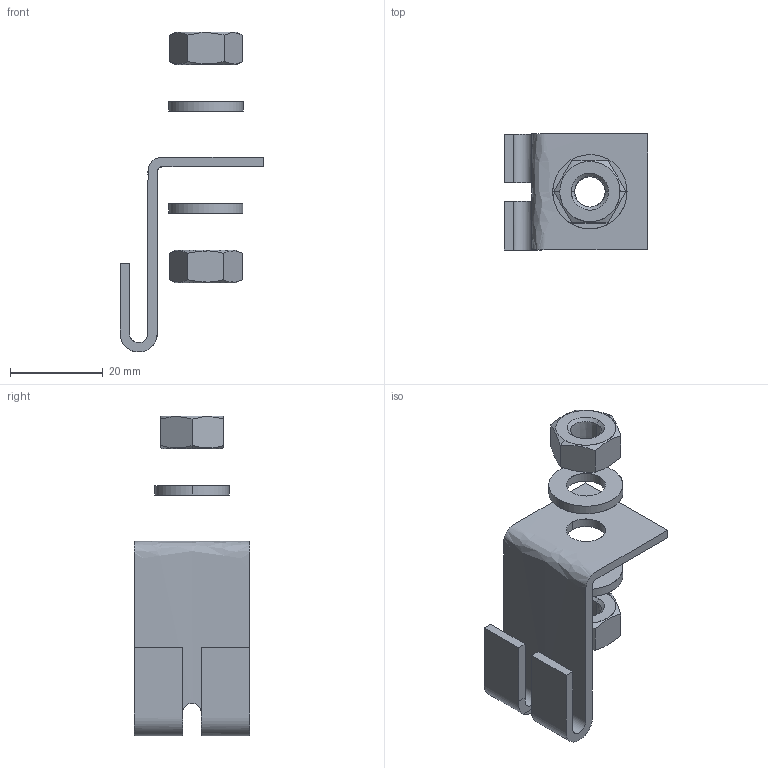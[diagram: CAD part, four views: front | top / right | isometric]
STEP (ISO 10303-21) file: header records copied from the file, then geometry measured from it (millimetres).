
FILE_DESCRIPTION(/* description */ (''),/* implementation_level */ '2;1');
FILE_NAME(/* name */ 'DZM06',/* time_stamp */ '2012-11-29T22:45:21+01:00',/* author */ (''),/* organization */ (''),/* preprocessor_version */ 'ST-DEVELOPER v10',/* originating_system */ '',/* authorisation */ '');
FILE_SCHEMA (('AUTOMOTIVE_DESIGN_CC2'));
Length unit declared in the file: millimetre
Products named in the file (1): 1
Bounding box: 31 x 25 x 68.97 mm (x, y, z)
Surface area: 6697.1 mm2 (no closed solid volume)
Topology: 0 solids, 48 shells, 63 faces, 241 edges, 213 vertices
Faces by surface type: bspline 33, plane 30
Entity records: 4825 total; most frequent: CARTESIAN_POINT 3120, ORIENTED_EDGE 268, EDGE_CURVE 238, VERTEX_POINT 208, B_SPLINE_CURVE_WITH_KNOTS 162, EDGE_LOOP 73, ADVANCED_FACE 63, FACE_OUTER_BOUND 63
